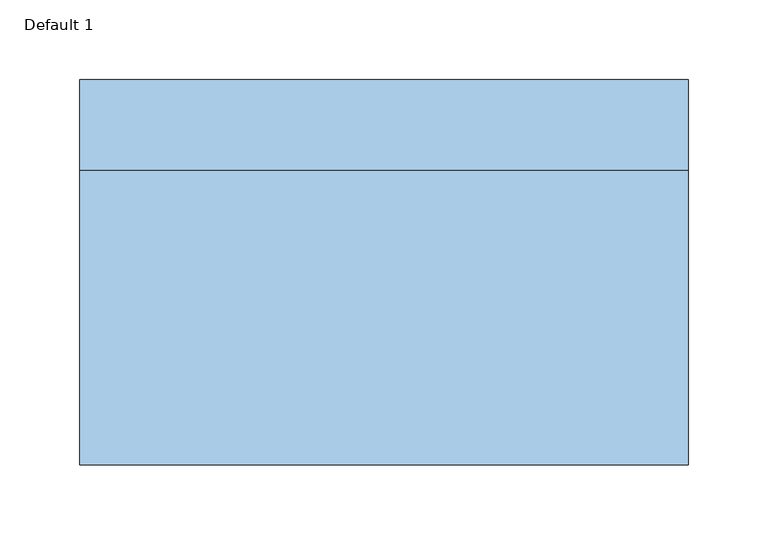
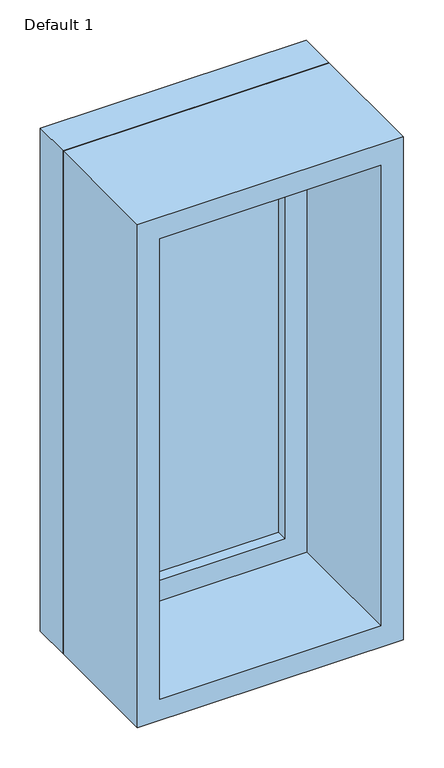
"""IFC4 building model written with IfcOpenShell, lengths in millimetres: window geometry, Planitar-Fixed : Default 1."""

from ifc_helpers import new_model, si_unit, frame, origin, place, context, project, spatial, polyline, outline, extrude, source, transform, mapped, element, save


def default_1_96466d02(model_context):
    return source(origin(), model_context, "Body", "SweptSolid", [
        extrude(outline(polyline([(1657.4, -171.5), (933.4, -171.5), (933.4, 171.5), (1657.4, 171.5), (1657.4, -171.5)]), holes=[polyline([(1613.4, -127.5), (1613.4, 127.5), (977.4, 127.5), (977.4, -127.5), (1613.4, -127.5)])]), frame((0.0, 76.95, 0.0), z_axis=(0.0, 1.0, 0.0), x_axis=(0.0, 0.0, 1.0)), (0.0, 0.0, 1.0), 44.0),
        extrude(outline(polyline([(1676.4, -190.5), (914.4, -190.5), (914.4, 190.5), (1676.4, 190.5), (1676.4, -190.5)]), holes=[polyline([(1657.4, -171.5), (1657.4, 171.5), (933.4, 171.5), (933.4, -171.5), (1657.4, -171.5)])]), frame((0.0, 76.95, 0.0), z_axis=(0.0, 1.0, 0.0), x_axis=(0.0, 0.0, 1.0)), (0.0, 0.0, 1.0), 56.7),
        extrude(outline(polyline([(1676.4, -190.5), (914.4, -190.5), (914.4, 190.5), (1676.4, 190.5), (1676.4, -190.5)]), holes=[polyline([(1644.4, -158.5), (1644.4, 158.5), (946.4, 158.5), (946.4, -158.5), (1644.4, -158.5)])]), frame((0.0, -107.65, 0.0), z_axis=(0.0, 1.0, 0.0), x_axis=(0.0, 0.0, 1.0)), (0.0, 0.0, 1.0), 184.6),
        extrude(outline(polyline([(-127.5, 104.95), (127.5, 104.95), (127.5, 92.95), (-127.5, 92.95), (-127.5, 104.95)])), frame((0.0, 0.0, 977.4), z_axis=(0.0, 0.0, 1.0), x_axis=(1.0, 0.0, 0.0)), (0.0, 0.0, 1.0), 636.0),
    ])


if __name__ == "__main__":
    model = new_model("IFC4")
    model_context = context("Model", 3, world=origin())
    ifc_project = project(units=[si_unit("LENGTHUNIT", "METRE", prefix="MILLI")], contexts=[model_context])
    site = spatial("IfcSite", under=ifc_project)
    building = spatial("IfcBuilding", under=site)
    placement = place(None, origin())
    default_1_shape = default_1_96466d02(model_context)
    element("IfcWindow", 1, ObjectType="Planitar-Fixed : Default 1", at=placement, inside=building, context=model_context, shape_type="MappedRepresentation", body=[
        mapped(default_1_shape, transform((0.0, 0.0, 0.0), x_axis=(1.0, 0.0, 0.0), y_axis=(0.0, 1.0, 0.0), z_axis=(0.0, 0.0, 1.0))),
    ])
    save(model, "model.ifc")
